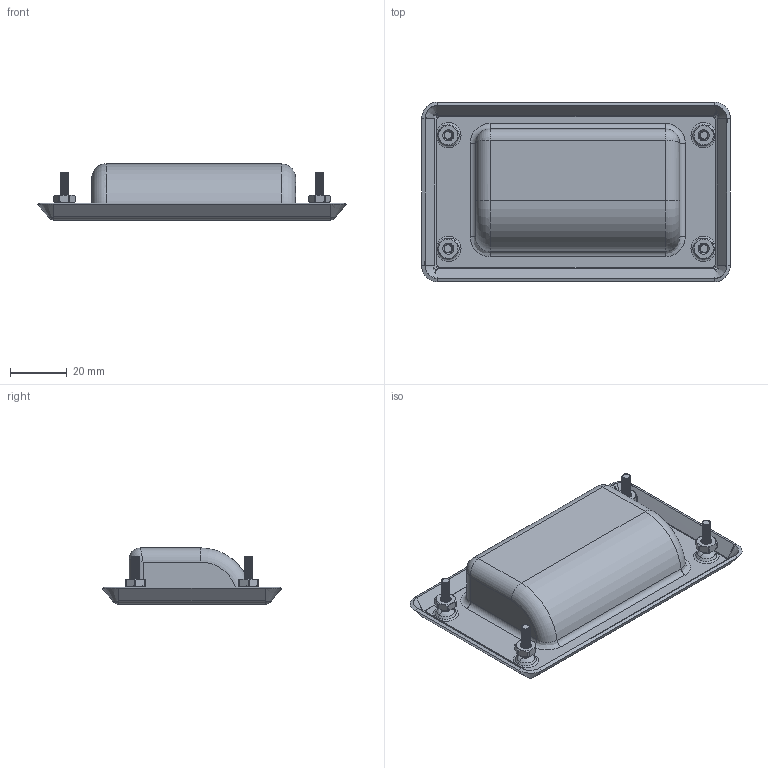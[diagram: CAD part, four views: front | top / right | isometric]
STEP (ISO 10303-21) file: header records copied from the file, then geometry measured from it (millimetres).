
FILE_DESCRIPTION((''),'2;1');
FILE_NAME('3302-01_ASM','2015-07-02T',('Administrator'),(''),'PRO/ENGINEER BY PARAMETRIC TECHNOLOGY CORPORATION, 2012230','PRO/ENGINEER BY PARAMETRIC TECHNOLOGY CORPORATION, 2012230','');
FILE_SCHEMA(('CONFIG_CONTROL_DESIGN','GEOMETRIC_VALIDATION_PROPERTIES_MIM'));
Products named in the file (1): 3302-01_ASM
Bounding box: 108.87 x 63.37 x 19.8 mm (x, y, z)
Volume: 18246.4 mm3; surface area: 27622.9 mm2
Topology: 1 solids, 1 shells, 647 faces, 1920 edges, 1262 vertices
Faces by surface type: cylinder 472, plane 79, bspline 68, cone 16, torus 12
Entity records: 40631 total; most frequent: CARTESIAN_POINT 25489, ORIENTED_EDGE 3808, DIRECTION 2164, EDGE_CURVE 1904, VERTEX_POINT 1262, B_SPLINE_CURVE_WITH_KNOTS 1091, AXIS2_PLACEMENT_3D 772, EDGE_LOOP 658
